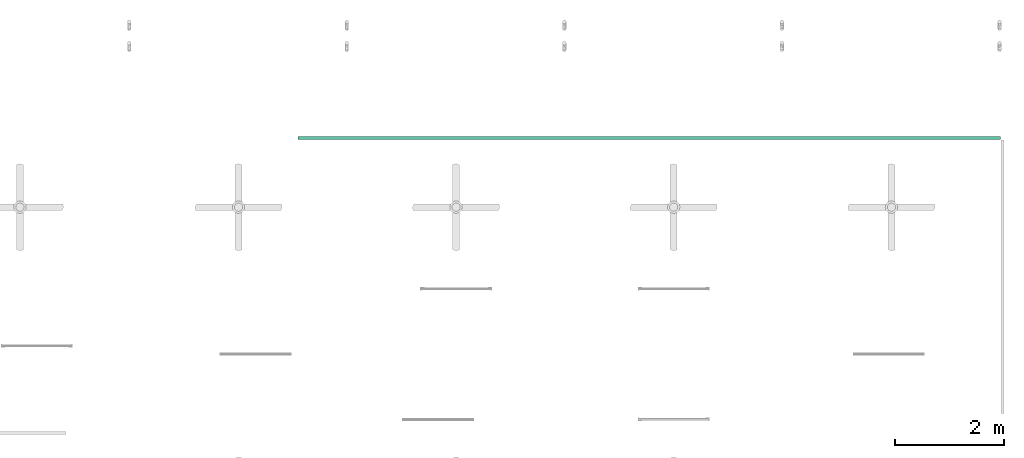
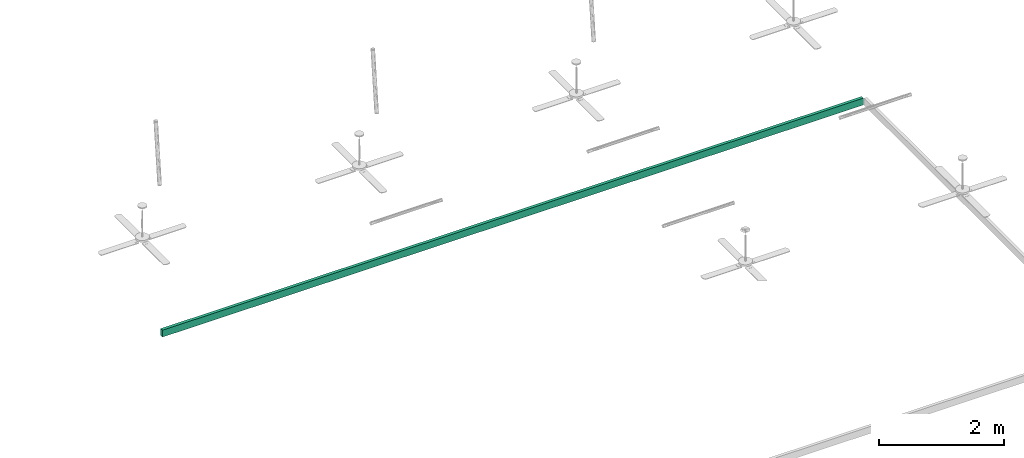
# One storey, part 6 of 9: 1 flow segment.
"""IFC2X3 building model written with IfcOpenShell, lengths in metres."""

from ifc_helpers import new_model, entity, si_unit, converted_unit, derived_unit, direction, frame, frame_2d, origin, place, context, subcontext, project, spatial, rectangle, extrude, type_object, element, save


model = new_model("IFC2X3")

# Units and contexts
model_context = context("Model", 3, precision=1e-05, world=origin(), true_north=direction((6.12303176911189e-17, 1.0)))
body_context = subcontext(model_context, "Body", "Model", "MODEL_VIEW")
ifc_project = project(units=[si_unit("LENGTHUNIT", "METRE"), si_unit("AREAUNIT", "SQUARE_METRE"), si_unit("VOLUMEUNIT", "CUBIC_METRE"), converted_unit("PLANEANGLEUNIT", "DEGREE", entity("IfcRatioMeasure", 0.0174532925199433), si_unit("PLANEANGLEUNIT", "RADIAN"), dimensions=[0, 0, 0, 0, 0, 0, 0]), si_unit("MASSUNIT", "GRAM", prefix="KILO"), derived_unit("MASSDENSITYUNIT", [(si_unit("MASSUNIT", "GRAM", prefix="KILO"), 1), (si_unit("LENGTHUNIT", "METRE"), -3)]), si_unit("TIMEUNIT", "SECOND"), si_unit("FREQUENCYUNIT", "HERTZ"), si_unit("THERMODYNAMICTEMPERATUREUNIT", "DEGREE_CELSIUS"), derived_unit("THERMALTRANSMITTANCEUNIT", [(si_unit("MASSUNIT", "GRAM", prefix="KILO"), 1), (si_unit("THERMODYNAMICTEMPERATUREUNIT", "KELVIN"), -1), (si_unit("TIMEUNIT", "SECOND"), -3)]), derived_unit("VOLUMETRICFLOWRATEUNIT", [(si_unit("LENGTHUNIT", "METRE"), 3), (si_unit("TIMEUNIT", "SECOND"), -1)]), si_unit("ELECTRICCURRENTUNIT", "AMPERE"), si_unit("ELECTRICVOLTAGEUNIT", "VOLT"), si_unit("POWERUNIT", "WATT"), si_unit("FORCEUNIT", "NEWTON"), si_unit("ILLUMINANCEUNIT", "LUX"), si_unit("LUMINOUSFLUXUNIT", "LUMEN"), si_unit("LUMINOUSINTENSITYUNIT", "CANDELA"), derived_unit("USERDEFINED", [(si_unit("MASSUNIT", "GRAM", prefix="KILO"), -1), (si_unit("LENGTHUNIT", "METRE"), -2), (si_unit("TIMEUNIT", "SECOND"), 3), (si_unit("LUMINOUSFLUXUNIT", "LUMEN"), 1)]), derived_unit("LINEARVELOCITYUNIT", [(si_unit("LENGTHUNIT", "METRE"), 1), (si_unit("TIMEUNIT", "SECOND"), -1)]), si_unit("PRESSUREUNIT", "PASCAL"), derived_unit("USERDEFINED", [(si_unit("LENGTHUNIT", "METRE"), -2), (si_unit("MASSUNIT", "GRAM", prefix="KILO"), 1), (si_unit("TIMEUNIT", "SECOND"), -2)])], contexts=[model_context])

# Site, building, storey
site_placement = place(None, origin())
site = spatial("IfcSite", under=ifc_project, at=site_placement, Name="Default", CompositionType="ELEMENT")
building_placement = place(site_placement, origin())
building = spatial("IfcBuilding", under=site, at=building_placement, CompositionType="ELEMENT")
storey_placement = place(building_placement, frame((0.0, 0.0, -0.0599999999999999)))
storey = spatial("IfcBuildingStorey", under=building, at=storey_placement, Name="S01", CompositionType="ELEMENT", Elevation=-0.0599999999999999)

# Flow segment
cable_carrier_segment_type = type_object("IfcCableCarrierSegmentType", Name="Cable Tray with Fittings:Goulottes de câbles indéfini_Goulottes de câbles", PredefinedType="NOTDEFINED")
flow_segment_placement = place(storey_placement, origin())
element("IfcFlowSegment", 1, at=flow_segment_placement, inside=storey, type_object=cable_carrier_segment_type, Name="Cable Tray with Fittings:Goulottes de câbles indéfini_Goulottes de câbles", ObjectType="Cable Tray with Fittings:Goulottes de câbles indéfini_Goulottes de câbles", context=body_context, shape_type="SweptSolid", body=[
    extrude(rectangle(XDim=12.9209200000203, YDim=0.0559999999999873, at=frame_2d((0.0, 1.73264180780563e-14), x_axis=(1.0, 0.0))), frame((63.0478977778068, -185.236069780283, 0.3), z_axis=(0.0, 0.0, 1.0), x_axis=(-1.0, 0.0, 0.0)), (0.0, 0.0, 1.0), 0.134),
])

save(model, "model.ifc")
